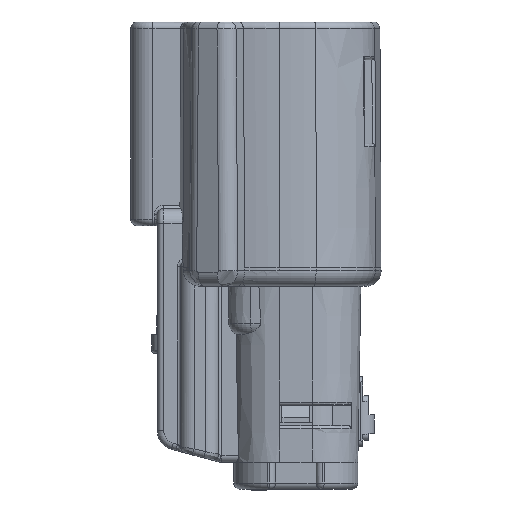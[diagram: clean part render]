
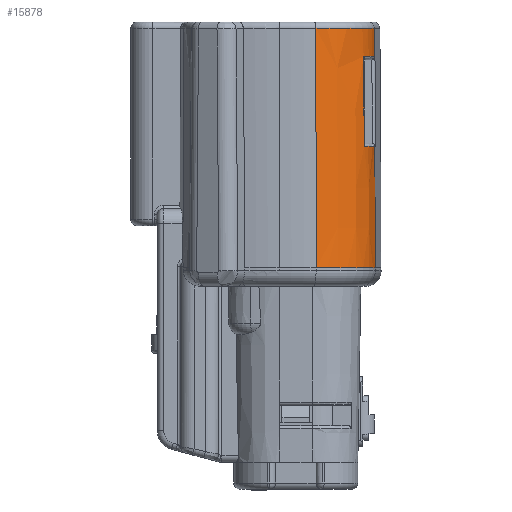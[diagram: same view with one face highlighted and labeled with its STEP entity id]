
A CAD part, left-side view. The second image highlights one B-rep face of the part: STEP entity #15878.
In plain terms, the highlighted conical face has half-angle 0.25 degrees and reference radius 5.782 mm.
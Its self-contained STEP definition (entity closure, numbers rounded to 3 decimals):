
#2289=CARTESIAN_POINT('',(-6.826,-1.826,
1.752));
#2290=DIRECTION('',(0.,0.,1.));
#2291=DIRECTION('',(-0.982,-0.189,0.));
#2292=AXIS2_PLACEMENT_3D('',#2289,#2290,#2291);
#2299=CARTESIAN_POINT('',(-6.826,-1.826,
-0.544));
#2300=DIRECTION('',(0.,0.012,1.));
#2301=DIRECTION('',(-0.534,-0.845,0.01));
#2302=AXIS2_PLACEMENT_3D('',#2299,#2300,#2301);
#2304=DIRECTION('',(0.,0.005,1.));
#2305=VECTOR('',#2304,7.096);
#2306=CARTESIAN_POINT('',(-9.898,-6.724,
-7.579));
#2307=LINE('',#2306,#2305);
#2308=CARTESIAN_POINT('',(-6.826,-1.827,
-7.517));
#2309=DIRECTION('',(0.,0.013,-1.));
#2310=DIRECTION('',(-0.124,-0.992,-0.013));
#2311=AXIS2_PLACEMENT_3D('',#2308,#2309,#2310);
#2313=CARTESIAN_POINT('',(-6.826,-1.826,
-17.195));
#2314=DIRECTION('',(0.,0.,1.));
#2315=DIRECTION('',(-0.982,-0.189,0.));
#2316=AXIS2_PLACEMENT_3D('',#2313,#2314,#2315);
#2318=DIRECTION('',(-0.004,-0.001,-1.));
#2319=VECTOR('',#2318,18.947);
#2320=CARTESIAN_POINT('',(-12.464,-2.91,
1.752));
#2321=LINE('',#2320,#2319);
#2327=DIRECTION('',(-0.001,-0.004,-1.));
#2328=VECTOR('',#2327,9.605);
#2329=CARTESIAN_POINT('',(-7.541,-7.564,
-7.59));
#2330=LINE('',#2329,#2328);
#2331=DIRECTION('',(-0.001,-0.004,-1.));
#2332=VECTOR('',#2331,2.225);
#2333=CARTESIAN_POINT('',(-7.536,-7.523,
1.752));
#2334=LINE('',#2333,#2332);
#3025=CARTESIAN_POINT('',(-9.899,-6.688,
-0.483));
#11035=CARTESIAN_POINT('',(-7.537,-7.533,
-0.473));
#11036=VERTEX_POINT('',#11035);
#11053=VERTEX_POINT('',#3025);
#11192=CARTESIAN_POINT('',(-7.536,-7.523,
1.752));
#11193=VERTEX_POINT('',#11192);
#11194=CARTESIAN_POINT('',(-9.898,-6.724,
-7.579));
#11195=VERTEX_POINT('',#11194);
#11196=CARTESIAN_POINT('',(-7.541,-7.564,
-7.59));
#11197=VERTEX_POINT('',#11196);
#11198=CARTESIAN_POINT('',(-7.546,-7.605,
-17.195));
#11199=VERTEX_POINT('',#11198);
#11200=CARTESIAN_POINT('',(-12.545,-2.926,
-17.195));
#11201=VERTEX_POINT('',#11200);
#11202=CARTESIAN_POINT('',(-12.464,-2.91,
1.752));
#11203=VERTEX_POINT('',#11202);
#15856=CARTESIAN_POINT('',(-6.826,-1.826,
-7.721));
#15857=DIRECTION('',(0.,0.,-1.));
#15858=DIRECTION('',(-1.,0.,0.));
#15859=AXIS2_PLACEMENT_3D('',#15856,#15857,#15858);
#15860=CONICAL_SURFACE('',#15859,5.783,0.25);
#15861=ORIENTED_EDGE('',*,*,#15847,.T.);
#15863=ORIENTED_EDGE('',*,*,#15862,.T.);
#15865=ORIENTED_EDGE('',*,*,#15864,.F.);
#15867=ORIENTED_EDGE('',*,*,#15866,.F.);
#15869=ORIENTED_EDGE('',*,*,#15868,.F.);
#15871=ORIENTED_EDGE('',*,*,#15870,.T.);
#15873=ORIENTED_EDGE('',*,*,#15872,.F.);
#15875=ORIENTED_EDGE('',*,*,#15874,.F.);
#15876=EDGE_LOOP('',(#15861,#15863,#15865,#15867,#15869,#15871,#15873,#15875));
#15877=FACE_OUTER_BOUND('',#15876,.F.);
#15878=ADVANCED_FACE('',(#15877),#15860,.T.);
#2293=CIRCLE('',#2292,5.741);
#2303=CIRCLE('',#2302,5.751);
#2312=CIRCLE('',#2311,5.782);
#2317=CIRCLE('',#2316,5.824);
#15847=EDGE_CURVE('',#11203,#11193,#2293,.T.);
#15862=EDGE_CURVE('',#11193,#11036,#2334,.T.);
#15864=EDGE_CURVE('',#11053,#11036,#2303,.T.);
#15866=EDGE_CURVE('',#11195,#11053,#2307,.T.);
#15868=EDGE_CURVE('',#11197,#11195,#2312,.T.);
#15870=EDGE_CURVE('',#11197,#11199,#2330,.T.);
#15872=EDGE_CURVE('',#11201,#11199,#2317,.T.);
#15874=EDGE_CURVE('',#11203,#11201,#2321,.T.);
